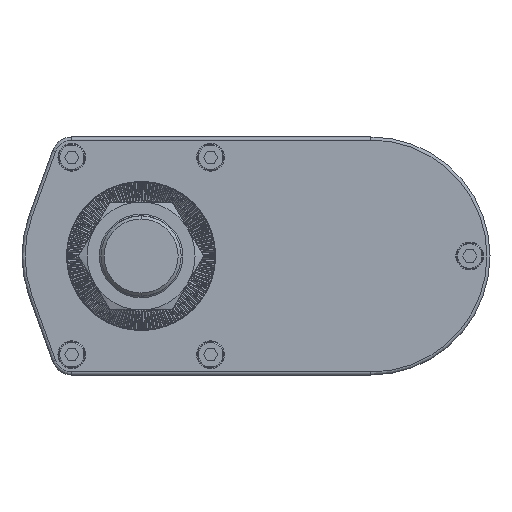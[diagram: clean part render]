
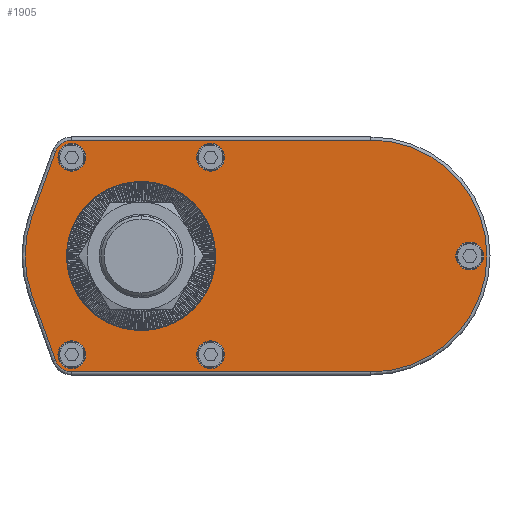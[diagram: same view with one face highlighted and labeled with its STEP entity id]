
A CAD part, left-side view. The second image highlights one B-rep face of the part: STEP entity #1905.
In plain terms, the highlighted planar face has unit normal (-1, 0, 0).
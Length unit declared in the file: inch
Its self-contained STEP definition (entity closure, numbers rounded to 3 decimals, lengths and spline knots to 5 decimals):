
#1905=ADVANCED_FACE('',(#5336,#5337,#5338,#5339,#5340,#5341,#5342),#5343,.F.);
#5336=FACE_BOUND('',#10382,.T.);
#5337=FACE_BOUND('',#10383,.T.);
#5338=FACE_BOUND('',#10384,.T.);
#5339=FACE_BOUND('',#10385,.T.);
#5340=FACE_BOUND('',#10386,.T.);
#5341=FACE_BOUND('',#10387,.T.);
#5342=FACE_OUTER_BOUND('',#10388,.T.);
#5343=PLANE('',#10389);
#10382=EDGE_LOOP('',(#16403,#16404));
#10383=EDGE_LOOP('',(#16405,#16406));
#10384=EDGE_LOOP('',(#16407,#16408));
#10385=EDGE_LOOP('',(#16409,#16410));
#10386=EDGE_LOOP('',(#16411,#16412));
#10387=EDGE_LOOP('',(#16413,#16414));
#10388=EDGE_LOOP('',(#16415,#16416,#16417,#16418,#16419,#16420,#16421,#16422));
#10389=AXIS2_PLACEMENT_3D('',#16423,#16424,#16425);
#16403=ORIENTED_EDGE('',*,*,#30566,.F.);
#16404=ORIENTED_EDGE('',*,*,#30567,.F.);
#16405=ORIENTED_EDGE('',*,*,#30559,.T.);
#16406=ORIENTED_EDGE('',*,*,#30427,.T.);
#16407=ORIENTED_EDGE('',*,*,#30568,.T.);
#16408=ORIENTED_EDGE('',*,*,#30569,.T.);
#16409=ORIENTED_EDGE('',*,*,#30570,.T.);
#16410=ORIENTED_EDGE('',*,*,#30571,.T.);
#16411=ORIENTED_EDGE('',*,*,#30572,.T.);
#16412=ORIENTED_EDGE('',*,*,#30573,.T.);
#16413=ORIENTED_EDGE('',*,*,#30574,.T.);
#16414=ORIENTED_EDGE('',*,*,#30575,.T.);
#16415=ORIENTED_EDGE('',*,*,#30576,.T.);
#16416=ORIENTED_EDGE('',*,*,#30577,.T.);
#16417=ORIENTED_EDGE('',*,*,#30578,.T.);
#16418=ORIENTED_EDGE('',*,*,#30579,.T.);
#16419=ORIENTED_EDGE('',*,*,#30580,.T.);
#16420=ORIENTED_EDGE('',*,*,#30581,.T.);
#16421=ORIENTED_EDGE('',*,*,#30582,.T.);
#16422=ORIENTED_EDGE('',*,*,#30583,.T.);
#16423=CARTESIAN_POINT('',(0.0,-2.93307,0.0));
#16424=DIRECTION('',(1.0,0.0,0.0));
#16425=DIRECTION('',(0.0,1.0,-0.0));
#30427=EDGE_CURVE('',#36400,#36398,#36401,.T.);
#30559=EDGE_CURVE('',#36398,#36400,#36629,.T.);
#30566=EDGE_CURVE('',#36639,#36640,#36641,.F.);
#30567=EDGE_CURVE('',#36640,#36639,#36642,.F.);
#30568=EDGE_CURVE('',#36643,#36644,#36645,.T.);
#30569=EDGE_CURVE('',#36644,#36643,#36646,.T.);
#30570=EDGE_CURVE('',#36647,#36648,#36649,.T.);
#30571=EDGE_CURVE('',#36648,#36647,#36650,.T.);
#30572=EDGE_CURVE('',#36651,#36652,#36653,.T.);
#30573=EDGE_CURVE('',#36652,#36651,#36654,.T.);
#30574=EDGE_CURVE('',#36655,#36656,#36657,.T.);
#30575=EDGE_CURVE('',#36656,#36655,#36658,.T.);
#30576=EDGE_CURVE('',#36659,#36660,#36661,.F.);
#30577=EDGE_CURVE('',#36660,#36662,#36663,.F.);
#30578=EDGE_CURVE('',#36662,#36664,#36665,.F.);
#30579=EDGE_CURVE('',#36664,#36666,#36667,.F.);
#30580=EDGE_CURVE('',#36666,#36668,#36669,.F.);
#30581=EDGE_CURVE('',#36668,#36670,#36671,.F.);
#30582=EDGE_CURVE('',#36670,#36672,#36673,.F.);
#30583=EDGE_CURVE('',#36672,#36659,#36674,.F.);
#36398=VERTEX_POINT('',#44707);
#36400=VERTEX_POINT('',#44710);
#36401=CIRCLE('',#44711,0.17717);
#36629=CIRCLE('',#45023,0.17717);
#36639=VERTEX_POINT('',#45036);
#36640=VERTEX_POINT('',#45037);
#36641=CIRCLE('',#45038,0.94882);
#36642=CIRCLE('',#45039,0.94882);
#36643=VERTEX_POINT('',#45040);
#36644=VERTEX_POINT('',#45041);
#36645=CIRCLE('',#45042,0.17717);
#36646=CIRCLE('',#45043,0.17717);
#36647=VERTEX_POINT('',#45044);
#36648=VERTEX_POINT('',#45045);
#36649=CIRCLE('',#45046,0.17717);
#36650=CIRCLE('',#45047,0.17717);
#36651=VERTEX_POINT('',#45048);
#36652=VERTEX_POINT('',#45049);
#36653=CIRCLE('',#45050,0.17717);
#36654=CIRCLE('',#45051,0.17717);
#36655=VERTEX_POINT('',#45052);
#36656=VERTEX_POINT('',#45053);
#36657=CIRCLE('',#45054,0.17717);
#36658=CIRCLE('',#45055,0.17717);
#36659=VERTEX_POINT('',#45056);
#36660=VERTEX_POINT('',#45057);
#36661=CIRCLE('',#45058,1.48031);
#36662=VERTEX_POINT('',#45059);
#36663=LINE('',#45060,#45061);
#36664=VERTEX_POINT('',#45062);
#36665=CIRCLE('',#45063,0.22047);
#36666=VERTEX_POINT('',#45064);
#36667=LINE('',#45065,#45066);
#36668=VERTEX_POINT('',#45067);
#36669=CIRCLE('',#45068,1.48031);
#36670=VERTEX_POINT('',#45069);
#36671=LINE('',#45070,#45071);
#36672=VERTEX_POINT('',#45072);
#36673=CIRCLE('',#45073,0.22047);
#36674=LINE('',#45074,#45075);
#44707=CARTESIAN_POINT('',(0.0,-4.19449,-0.17717));
#44710=CARTESIAN_POINT('',(0.0,-4.19449,0.17717));
#44711=AXIS2_PLACEMENT_3D('',#54979,#54980,#54981);
#45023=AXIS2_PLACEMENT_3D('',#55131,#55132,#55133);
#45036=CARTESIAN_POINT('',(0.0,0.0,-0.94882));
#45037=CARTESIAN_POINT('',(0.0,0.,0.94882));
#45038=AXIS2_PLACEMENT_3D('',#55140,#55141,#55142);
#45039=AXIS2_PLACEMENT_3D('',#55143,#55144,#55145);
#45040=CARTESIAN_POINT('',(0.0,0.88425,1.08268));
#45041=CARTESIAN_POINT('',(0.0,0.88425,1.43701));
#45042=AXIS2_PLACEMENT_3D('',#55146,#55147,#55148);
#45043=AXIS2_PLACEMENT_3D('',#55149,#55150,#55151);
#45044=CARTESIAN_POINT('',(0.0,-0.8874,-1.43701));
#45045=CARTESIAN_POINT('',(0.0,-0.8874,-1.08268));
#45046=AXIS2_PLACEMENT_3D('',#55152,#55153,#55154);
#45047=AXIS2_PLACEMENT_3D('',#55155,#55156,#55157);
#45048=CARTESIAN_POINT('',(0.0,-0.8874,1.08268));
#45049=CARTESIAN_POINT('',(0.0,-0.8874,1.43701));
#45050=AXIS2_PLACEMENT_3D('',#55158,#55159,#55160);
#45051=AXIS2_PLACEMENT_3D('',#55161,#55162,#55163);
#45052=CARTESIAN_POINT('',(0.0,0.88425,-1.43701));
#45053=CARTESIAN_POINT('',(0.0,0.88425,-1.08268));
#45054=AXIS2_PLACEMENT_3D('',#55164,#55165,#55166);
#45055=AXIS2_PLACEMENT_3D('',#55167,#55168,#55169);
#45056=CARTESIAN_POINT('',(0.0,1.39217,0.50319));
#45057=CARTESIAN_POINT('',(0.0,1.39217,-0.50319));
#45058=AXIS2_PLACEMENT_3D('',#55170,#55171,#55172);
#45059=CARTESIAN_POINT('',(0.0,1.0916,-1.33479));
#45060=CARTESIAN_POINT('',(0.0,1.0916,-1.33479));
#45061=VECTOR('',#55173,39.37008);
#45062=CARTESIAN_POINT('',(0.0,0.88425,-1.48031));
#45063=AXIS2_PLACEMENT_3D('',#55174,#55175,#55176);
#45064=CARTESIAN_POINT('',(0.0,-2.93307,-1.48031));
#45065=CARTESIAN_POINT('',(0.0,-2.93307,-1.48031));
#45066=VECTOR('',#55177,39.37008);
#45067=CARTESIAN_POINT('',(0.0,-2.93307,1.48031));
#45068=AXIS2_PLACEMENT_3D('',#55178,#55179,#55180);
#45069=CARTESIAN_POINT('',(0.0,0.88425,1.48031));
#45070=CARTESIAN_POINT('',(0.0,0.88425,1.48031));
#45071=VECTOR('',#55181,39.37008);
#45072=CARTESIAN_POINT('',(0.0,1.0916,1.33479));
#45073=AXIS2_PLACEMENT_3D('',#55182,#55183,#55184);
#45074=CARTESIAN_POINT('',(0.0,1.39217,0.50319));
#45075=VECTOR('',#55185,39.37008);
#54979=CARTESIAN_POINT('',(0.0,-4.19449,0.0));
#54980=DIRECTION('',(1.0,0.0,0.0));
#54981=DIRECTION('',(0.0,0.0,-1.0));
#55131=CARTESIAN_POINT('',(0.0,-4.19449,0.0));
#55132=DIRECTION('',(1.0,0.0,0.0));
#55133=DIRECTION('',(0.0,0.0,-1.0));
#55140=CARTESIAN_POINT('',(0.0,0.0,0.0));
#55141=DIRECTION('',(1.0,0.0,0.0));
#55142=DIRECTION('',(0.0,0.0,-1.0));
#55143=CARTESIAN_POINT('',(0.0,0.0,0.0));
#55144=DIRECTION('',(1.0,0.0,0.0));
#55145=DIRECTION('',(0.0,0.0,-1.0));
#55146=CARTESIAN_POINT('',(0.0,0.88425,1.25984));
#55147=DIRECTION('',(1.0,0.0,0.0));
#55148=DIRECTION('',(0.0,0.0,-1.0));
#55149=CARTESIAN_POINT('',(0.0,0.88425,1.25984));
#55150=DIRECTION('',(1.0,0.0,0.0));
#55151=DIRECTION('',(0.0,0.0,-1.0));
#55152=CARTESIAN_POINT('',(0.0,-0.8874,-1.25984));
#55153=DIRECTION('',(1.0,0.0,0.0));
#55154=DIRECTION('',(0.0,0.0,-1.0));
#55155=CARTESIAN_POINT('',(0.0,-0.8874,-1.25984));
#55156=DIRECTION('',(1.0,0.0,0.0));
#55157=DIRECTION('',(0.0,0.0,-1.0));
#55158=CARTESIAN_POINT('',(0.0,-0.8874,1.25984));
#55159=DIRECTION('',(1.0,0.0,0.0));
#55160=DIRECTION('',(0.0,0.0,-1.0));
#55161=CARTESIAN_POINT('',(0.0,-0.8874,1.25984));
#55162=DIRECTION('',(1.0,0.0,0.0));
#55163=DIRECTION('',(0.0,0.0,-1.0));
#55164=CARTESIAN_POINT('',(0.0,0.88425,-1.25984));
#55165=DIRECTION('',(1.0,0.0,0.0));
#55166=DIRECTION('',(0.0,0.0,-1.0));
#55167=CARTESIAN_POINT('',(0.0,0.88425,-1.25984));
#55168=DIRECTION('',(1.0,0.0,0.0));
#55169=DIRECTION('',(0.0,0.0,-1.0));
#55170=CARTESIAN_POINT('',(0.0,0.,0.0));
#55171=DIRECTION('',(1.0,0.0,0.0));
#55172=DIRECTION('',(0.0,0.0,-1.0));
#55173=DIRECTION('',(0.0,0.34,0.94));
#55174=CARTESIAN_POINT('',(0.0,0.88425,-1.25984));
#55175=DIRECTION('',(1.0,0.0,0.0));
#55176=DIRECTION('',(0.0,0.0,-1.0));
#55177=DIRECTION('',(0.0,1.0,0.0));
#55178=CARTESIAN_POINT('',(0.0,-2.93307,0.0));
#55179=DIRECTION('',(1.0,0.0,0.0));
#55180=DIRECTION('',(0.0,0.0,-1.0));
#55181=DIRECTION('',(0.0,-1.0,0.0));
#55182=CARTESIAN_POINT('',(0.0,0.88425,1.25984));
#55183=DIRECTION('',(1.0,0.0,0.0));
#55184=DIRECTION('',(0.0,0.0,-1.0));
#55185=DIRECTION('',(0.0,-0.34,0.94));
